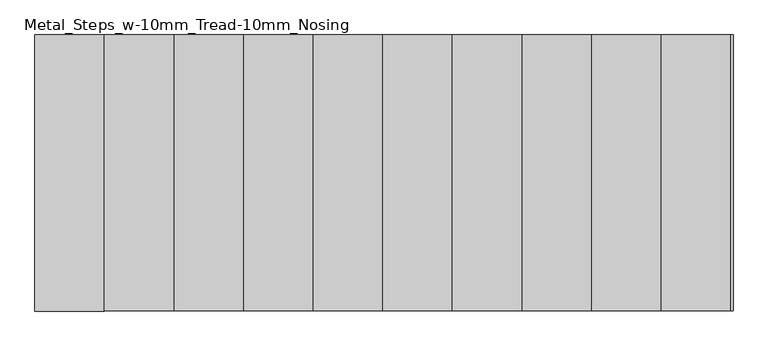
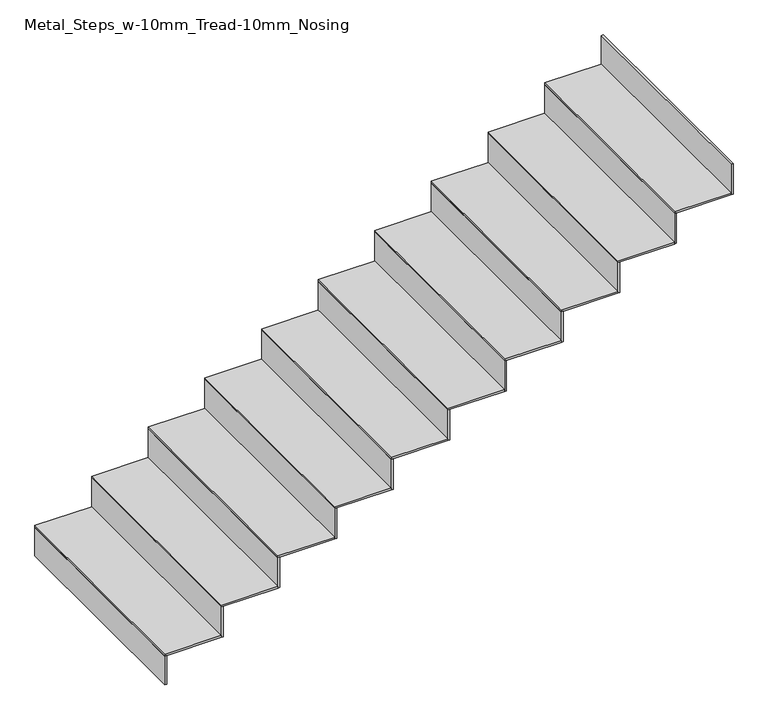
"""IFC4 building model written with IfcOpenShell, lengths in millimetres: stair flight geometry, Metal_Steps_w-10mm_Tread-10mm_Nosing."""

from ifc_helpers import new_model, si_unit, frame, origin, place, context, project, spatial, polyline, outline, extrude, source, transform, mapped, element, save


def metal_steps_w_10mm_tread_10mm_nosing_9838f95c(model_context):
    return source(origin(), model_context, "Body", "SweptSolid", [
        extrude(outline(polyline([(-791.4958562, -4544.3473686), (-801.4958562, -4544.3473686), (-801.4958562, -3354.3473686), (-791.4958562, -3354.3473686), (-791.4958562, -4544.3473686)])), frame((0.0, 0.0, 11260.0), z_axis=(0.0, 0.0, 1.0), x_axis=(1.0, 0.0, 0.0)), (0.0, 0.0, 1.0), 160.4545455),
        extrude(outline(polyline([(-501.4958562, -3354.3473686), (-501.4958562, -4544.3473686), (-801.4958562, -4544.3473686), (-801.4958562, -3354.3473686), (-501.4958562, -3354.3473686)])), frame((0.0, 0.0, 11420.4545455), z_axis=(0.0, 0.0, 1.0), x_axis=(1.0, 0.0, 0.0)), (0.0, 0.0, 1.0), 10.0),
        extrude(outline(polyline([(-491.4958562, -4544.3473686), (-501.4958562, -4544.3473686), (-501.4958562, -3354.3473686), (-491.4958562, -3354.3473686), (-491.4958562, -4544.3473686)])), frame((0.0, 0.0, 11420.4545455), z_axis=(0.0, 0.0, 1.0), x_axis=(1.0, 0.0, 0.0)), (0.0, 0.0, 1.0), 170.4545455),
        extrude(outline(polyline([(-201.4958562, -3354.3473686), (-201.4958562, -4544.3473686), (-501.4958562, -4544.3473686), (-501.4958562, -3354.3473686), (-201.4958562, -3354.3473686)])), frame((0.0, 0.0, 11590.9090909), z_axis=(0.0, 0.0, 1.0), x_axis=(1.0, 0.0, 0.0)), (0.0, 0.0, 1.0), 10.0),
        extrude(outline(polyline([(-191.4958562, -4544.3473686), (-201.4958562, -4544.3473686), (-201.4958562, -3354.3473686), (-191.4958562, -3354.3473686), (-191.4958562, -4544.3473686)])), frame((0.0, 0.0, 11590.9090909), z_axis=(0.0, 0.0, 1.0), x_axis=(1.0, 0.0, 0.0)), (0.0, 0.0, 1.0), 170.4545455),
        extrude(outline(polyline([(98.5041438, -3354.3473686), (98.5041438, -4544.3473686), (-201.4958562, -4544.3473686), (-201.4958562, -3354.3473686), (98.5041438, -3354.3473686)])), frame((0.0, 0.0, 11761.3636364), z_axis=(0.0, 0.0, 1.0), x_axis=(1.0, 0.0, 0.0)), (0.0, 0.0, 1.0), 10.0),
        extrude(outline(polyline([(108.5041438, -4544.3473686), (98.5041438, -4544.3473686), (98.5041438, -3354.3473686), (108.5041438, -3354.3473686), (108.5041438, -4544.3473686)])), frame((0.0, 0.0, 11761.3636364), z_axis=(0.0, 0.0, 1.0), x_axis=(1.0, 0.0, 0.0)), (0.0, 0.0, 1.0), 170.4545455),
        extrude(outline(polyline([(398.5041438, -3354.3473686), (398.5041438, -4544.3473686), (98.5041438, -4544.3473686), (98.5041438, -3354.3473686), (398.5041438, -3354.3473686)])), frame((0.0, 0.0, 11931.8181818), z_axis=(0.0, 0.0, 1.0), x_axis=(1.0, 0.0, 0.0)), (0.0, 0.0, 1.0), 10.0),
        extrude(outline(polyline([(408.5041438, -4544.3473686), (398.5041438, -4544.3473686), (398.5041438, -3354.3473686), (408.5041438, -3354.3473686), (408.5041438, -4544.3473686)])), frame((0.0, 0.0, 11931.8181818), z_axis=(0.0, 0.0, 1.0), x_axis=(1.0, 0.0, 0.0)), (0.0, 0.0, 1.0), 170.4545455),
        extrude(outline(polyline([(698.5041438, -3354.3473686), (698.5041438, -4544.3473686), (398.5041438, -4544.3473686), (398.5041438, -3354.3473686), (698.5041438, -3354.3473686)])), frame((0.0, 0.0, 12102.2727273), z_axis=(0.0, 0.0, 1.0), x_axis=(1.0, 0.0, 0.0)), (0.0, 0.0, 1.0), 10.0),
        extrude(outline(polyline([(708.5041438, -4544.3473686), (698.5041438, -4544.3473686), (698.5041438, -3354.3473686), (708.5041438, -3354.3473686), (708.5041438, -4544.3473686)])), frame((0.0, 0.0, 12102.2727273), z_axis=(0.0, 0.0, 1.0), x_axis=(1.0, 0.0, 0.0)), (0.0, 0.0, 1.0), 170.4545455),
        extrude(outline(polyline([(998.5041438, -3354.3473686), (998.5041438, -4544.3473686), (698.5041438, -4544.3473686), (698.5041438, -3354.3473686), (998.5041438, -3354.3473686)])), frame((0.0, 0.0, 12272.7272727), z_axis=(0.0, 0.0, 1.0), x_axis=(1.0, 0.0, 0.0)), (0.0, 0.0, 1.0), 10.0),
        extrude(outline(polyline([(1008.5041438, -4544.3473686), (998.5041438, -4544.3473686), (998.5041438, -3354.3473686), (1008.5041438, -3354.3473686), (1008.5041438, -4544.3473686)])), frame((0.0, 0.0, 12272.7272727), z_axis=(0.0, 0.0, 1.0), x_axis=(1.0, 0.0, 0.0)), (0.0, 0.0, 1.0), 170.4545455),
        extrude(outline(polyline([(1298.5041438, -3354.3473686), (1298.5041438, -4544.3473686), (998.5041438, -4544.3473686), (998.5041438, -3354.3473686), (1298.5041438, -3354.3473686)])), frame((0.0, 0.0, 12443.1818182), z_axis=(0.0, 0.0, 1.0), x_axis=(1.0, 0.0, 0.0)), (0.0, 0.0, 1.0), 10.0),
        extrude(outline(polyline([(1308.5041438, -4544.3473686), (1298.5041438, -4544.3473686), (1298.5041438, -3354.3473686), (1308.5041438, -3354.3473686), (1308.5041438, -4544.3473686)])), frame((0.0, 0.0, 12443.1818182), z_axis=(0.0, 0.0, 1.0), x_axis=(1.0, 0.0, 0.0)), (0.0, 0.0, 1.0), 170.4545455),
        extrude(outline(polyline([(1598.5041438, -3354.3473686), (1598.5041438, -4544.3473686), (1298.5041438, -4544.3473686), (1298.5041438, -3354.3473686), (1598.5041438, -3354.3473686)])), frame((0.0, 0.0, 12613.6363636), z_axis=(0.0, 0.0, 1.0), x_axis=(1.0, 0.0, 0.0)), (0.0, 0.0, 1.0), 10.0),
        extrude(outline(polyline([(1608.5041438, -4544.3473686), (1598.5041438, -4544.3473686), (1598.5041438, -3354.3473686), (1608.5041438, -3354.3473686), (1608.5041438, -4544.3473686)])), frame((0.0, 0.0, 12613.6363636), z_axis=(0.0, 0.0, 1.0), x_axis=(1.0, 0.0, 0.0)), (0.0, 0.0, 1.0), 170.4545455),
        extrude(outline(polyline([(1898.5041438, -3354.3473686), (1898.5041438, -4544.3473686), (1598.5041438, -4544.3473686), (1598.5041438, -3354.3473686), (1898.5041438, -3354.3473686)])), frame((0.0, 0.0, 12784.0909091), z_axis=(0.0, 0.0, 1.0), x_axis=(1.0, 0.0, 0.0)), (0.0, 0.0, 1.0), 10.0),
        extrude(outline(polyline([(1908.5041438, -4544.3473686), (1898.5041438, -4544.3473686), (1898.5041438, -3354.3473686), (1908.5041438, -3354.3473686), (1908.5041438, -4544.3473686)])), frame((0.0, 0.0, 12784.0909091), z_axis=(0.0, 0.0, 1.0), x_axis=(1.0, 0.0, 0.0)), (0.0, 0.0, 1.0), 170.4545455),
        extrude(outline(polyline([(2198.5041438, -3354.3473686), (2198.5041438, -4544.3473686), (1898.5041438, -4544.3473686), (1898.5041438, -3354.3473686), (2198.5041438, -3354.3473686)])), frame((0.0, 0.0, 12954.5454545), z_axis=(0.0, 0.0, 1.0), x_axis=(1.0, 0.0, 0.0)), (0.0, 0.0, 1.0), 10.0),
        extrude(outline(polyline([(2208.5041438, -4544.3473686), (2198.5041438, -4544.3473686), (2198.5041438, -3354.3473686), (2208.5041438, -3354.3473686), (2208.5041438, -4544.3473686)])), frame((0.0, 0.0, 12954.5454545), z_axis=(0.0, 0.0, 1.0), x_axis=(1.0, 0.0, 0.0)), (0.0, 0.0, 1.0), 170.4545455),
    ])


if __name__ == "__main__":
    model = new_model("IFC4")
    model_context = context("Model", 3, world=origin())
    ifc_project = project(units=[si_unit("LENGTHUNIT", "METRE", prefix="MILLI")], contexts=[model_context])
    site = spatial("IfcSite", under=ifc_project)
    building = spatial("IfcBuilding", under=site)
    placement = place(None, origin())
    metal_steps_w_10mm_tread_10mm_nosing_shape = metal_steps_w_10mm_tread_10mm_nosing_9838f95c(model_context)
    element("IfcStairFlight", 1, ObjectType="Metal_Steps_w-10mm_Tread-10mm_Nosing", at=placement, inside=building, context=model_context, shape_type="MappedRepresentation", body=[
        mapped(metal_steps_w_10mm_tread_10mm_nosing_shape, transform((0.0, 0.0, 0.0), x_axis=(1.0, 0.0, 0.0), y_axis=(0.0, 1.0, 0.0), z_axis=(0.0, 0.0, 1.0))),
    ])
    save(model, "model.ifc")
